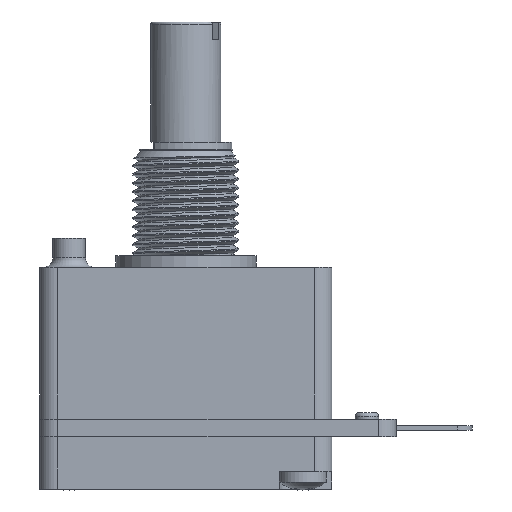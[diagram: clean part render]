
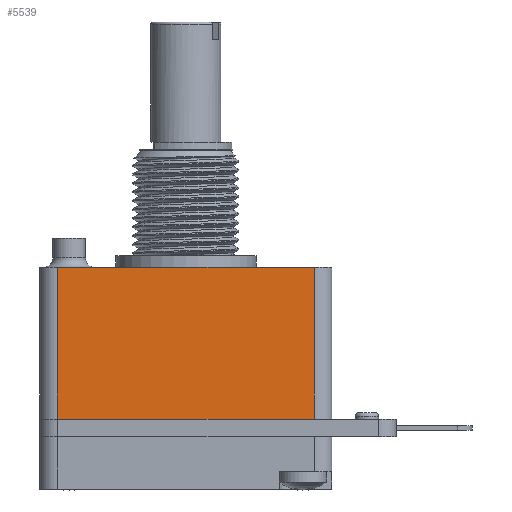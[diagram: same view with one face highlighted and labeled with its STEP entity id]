
A CAD part, left-side view. The second image highlights one B-rep face of the part: STEP entity #5539.
In plain terms, the highlighted planar face has unit normal (-1, 0, 0).
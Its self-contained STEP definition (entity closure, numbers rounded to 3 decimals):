
#3416 = VERTEX_POINT('',#3417);
#3417 = CARTESIAN_POINT('',(-12.5,-11.,-14.));
#3431 = PLANE('',#3432);
#3432 = AXIS2_PLACEMENT_3D('',#3433,#3434,#3435);
#3433 = CARTESIAN_POINT('',(-12.5,-18.,-15.5));
#3434 = DIRECTION('',(1.,0.,0.));
#3435 = DIRECTION('',(0.,0.,1.));
#3599 = CYLINDRICAL_SURFACE('',#3600,1.5);
#3600 = AXIS2_PLACEMENT_3D('',#3601,#3602,#3603);
#3601 = CARTESIAN_POINT('',(-11.,-11.,-14.));
#3602 = DIRECTION('',(0.,0.,1.));
#3603 = DIRECTION('',(-1.,0.,0.));
#3737 = PLANE('',#3738);
#3738 = AXIS2_PLACEMENT_3D('',#3739,#3740,#3741);
#3739 = CARTESIAN_POINT('',(-12.5,-12.5,-1.));
#3740 = DIRECTION('',(0.,0.,1.));
#3741 = DIRECTION('',(1.,0.,0.));
#4330 = VERTEX_POINT('',#4331);
#4331 = CARTESIAN_POINT('',(-12.5,11.,-14.));
#4346 = CYLINDRICAL_SURFACE('',#4347,1.5);
#4347 = AXIS2_PLACEMENT_3D('',#4348,#4349,#4350);
#4348 = CARTESIAN_POINT('',(-11.,11.,-14.));
#4349 = DIRECTION('',(0.,0.,1.));
#4350 = DIRECTION('',(-1.,0.,0.));
#4509 = EDGE_CURVE('',#3416,#4330,#4510,.T.);
#4510 = SURFACE_CURVE('',#4511,(#4515,#4522),.PCURVE_S1.);
#4511 = LINE('',#4512,#4513);
#4512 = CARTESIAN_POINT('',(-12.5,-18.,-14.));
#4513 = VECTOR('',#4514,1.);
#4514 = DIRECTION('',(0.,1.,0.));
#4515 = PCURVE('',#3431,#4516);
#4516 = DEFINITIONAL_REPRESENTATION('',(#4517),#4521);
#4517 = LINE('',#4518,#4519);
#4518 = CARTESIAN_POINT('',(1.5,0.));
#4519 = VECTOR('',#4520,1.);
#4520 = DIRECTION('',(0.,-1.));
#4521 = ( GEOMETRIC_REPRESENTATION_CONTEXT(2) 
PARAMETRIC_REPRESENTATION_CONTEXT() REPRESENTATION_CONTEXT('2D SPACE',''
  ) );
#4522 = PCURVE('',#4523,#4528);
#4523 = PLANE('',#4524);
#4524 = AXIS2_PLACEMENT_3D('',#4525,#4526,#4527);
#4525 = CARTESIAN_POINT('',(-12.5,-12.5,-14.));
#4526 = DIRECTION('',(1.,0.,0.));
#4527 = DIRECTION('',(0.,0.,1.));
#4528 = DEFINITIONAL_REPRESENTATION('',(#4529),#4533);
#4529 = LINE('',#4530,#4531);
#4530 = CARTESIAN_POINT('',(0.,5.5));
#4531 = VECTOR('',#4532,1.);
#4532 = DIRECTION('',(0.,-1.));
#4533 = ( GEOMETRIC_REPRESENTATION_CONTEXT(2) 
PARAMETRIC_REPRESENTATION_CONTEXT() REPRESENTATION_CONTEXT('2D SPACE',''
  ) );
#4590 = VERTEX_POINT('',#4591);
#4591 = CARTESIAN_POINT('',(-12.5,-11.,-1.));
#4613 = EDGE_CURVE('',#3416,#4590,#4614,.T.);
#4614 = SURFACE_CURVE('',#4615,(#4619,#4626),.PCURVE_S1.);
#4615 = LINE('',#4616,#4617);
#4616 = CARTESIAN_POINT('',(-12.5,-11.,-14.));
#4617 = VECTOR('',#4618,1.);
#4618 = DIRECTION('',(0.,0.,1.));
#4619 = PCURVE('',#3599,#4620);
#4620 = DEFINITIONAL_REPRESENTATION('',(#4621),#4625);
#4621 = LINE('',#4622,#4623);
#4622 = CARTESIAN_POINT('',(0.,0.));
#4623 = VECTOR('',#4624,1.);
#4624 = DIRECTION('',(0.,1.));
#4625 = ( GEOMETRIC_REPRESENTATION_CONTEXT(2) 
PARAMETRIC_REPRESENTATION_CONTEXT() REPRESENTATION_CONTEXT('2D SPACE',''
  ) );
#4626 = PCURVE('',#4523,#4627);
#4627 = DEFINITIONAL_REPRESENTATION('',(#4628),#4632);
#4628 = LINE('',#4629,#4630);
#4629 = CARTESIAN_POINT('',(0.,-1.5));
#4630 = VECTOR('',#4631,1.);
#4631 = DIRECTION('',(1.,0.));
#4632 = ( GEOMETRIC_REPRESENTATION_CONTEXT(2) 
PARAMETRIC_REPRESENTATION_CONTEXT() REPRESENTATION_CONTEXT('2D SPACE',''
  ) );
#5222 = EDGE_CURVE('',#4590,#5223,#5225,.T.);
#5223 = VERTEX_POINT('',#5224);
#5224 = CARTESIAN_POINT('',(-12.5,11.,-1.));
#5225 = SURFACE_CURVE('',#5226,(#5230,#5237),.PCURVE_S1.);
#5226 = LINE('',#5227,#5228);
#5227 = CARTESIAN_POINT('',(-12.5,-12.5,-1.));
#5228 = VECTOR('',#5229,1.);
#5229 = DIRECTION('',(0.,1.,0.));
#5230 = PCURVE('',#3737,#5231);
#5231 = DEFINITIONAL_REPRESENTATION('',(#5232),#5236);
#5232 = LINE('',#5233,#5234);
#5233 = CARTESIAN_POINT('',(0.,0.));
#5234 = VECTOR('',#5235,1.);
#5235 = DIRECTION('',(0.,1.));
#5236 = ( GEOMETRIC_REPRESENTATION_CONTEXT(2) 
PARAMETRIC_REPRESENTATION_CONTEXT() REPRESENTATION_CONTEXT('2D SPACE',''
  ) );
#5237 = PCURVE('',#4523,#5238);
#5238 = DEFINITIONAL_REPRESENTATION('',(#5239),#5243);
#5239 = LINE('',#5240,#5241);
#5240 = CARTESIAN_POINT('',(13.,0.));
#5241 = VECTOR('',#5242,1.);
#5242 = DIRECTION('',(0.,-1.));
#5243 = ( GEOMETRIC_REPRESENTATION_CONTEXT(2) 
PARAMETRIC_REPRESENTATION_CONTEXT() REPRESENTATION_CONTEXT('2D SPACE',''
  ) );
#5519 = EDGE_CURVE('',#4330,#5223,#5520,.T.);
#5520 = SURFACE_CURVE('',#5521,(#5525,#5532),.PCURVE_S1.);
#5521 = LINE('',#5522,#5523);
#5522 = CARTESIAN_POINT('',(-12.5,11.,-14.));
#5523 = VECTOR('',#5524,1.);
#5524 = DIRECTION('',(0.,0.,1.));
#5525 = PCURVE('',#4346,#5526);
#5526 = DEFINITIONAL_REPRESENTATION('',(#5527),#5531);
#5527 = LINE('',#5528,#5529);
#5528 = CARTESIAN_POINT('',(-0.,0.));
#5529 = VECTOR('',#5530,1.);
#5530 = DIRECTION('',(-0.,1.));
#5531 = ( GEOMETRIC_REPRESENTATION_CONTEXT(2) 
PARAMETRIC_REPRESENTATION_CONTEXT() REPRESENTATION_CONTEXT('2D SPACE',''
  ) );
#5532 = PCURVE('',#4523,#5533);
#5533 = DEFINITIONAL_REPRESENTATION('',(#5534),#5538);
#5534 = LINE('',#5535,#5536);
#5535 = CARTESIAN_POINT('',(0.,-23.5));
#5536 = VECTOR('',#5537,1.);
#5537 = DIRECTION('',(1.,0.));
#5538 = ( GEOMETRIC_REPRESENTATION_CONTEXT(2) 
PARAMETRIC_REPRESENTATION_CONTEXT() REPRESENTATION_CONTEXT('2D SPACE',''
  ) );
#5539 = ADVANCED_FACE('',(#5540),#4523,.F.);
#5540 = FACE_BOUND('',#5541,.F.);
#5541 = EDGE_LOOP('',(#5542,#5543,#5544,#5545));
#5542 = ORIENTED_EDGE('',*,*,#5222,.F.);
#5543 = ORIENTED_EDGE('',*,*,#4613,.F.);
#5544 = ORIENTED_EDGE('',*,*,#4509,.T.);
#5545 = ORIENTED_EDGE('',*,*,#5519,.T.);
